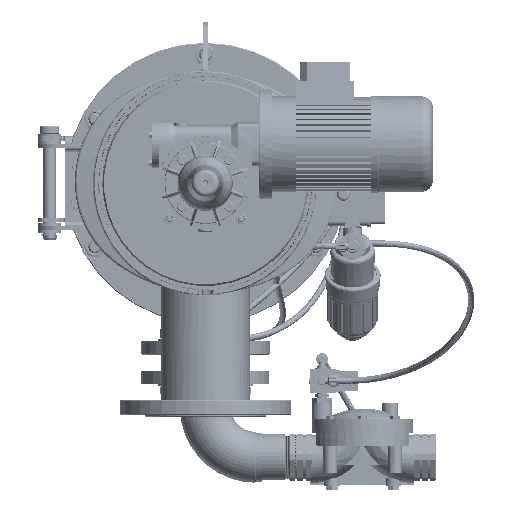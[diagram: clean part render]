
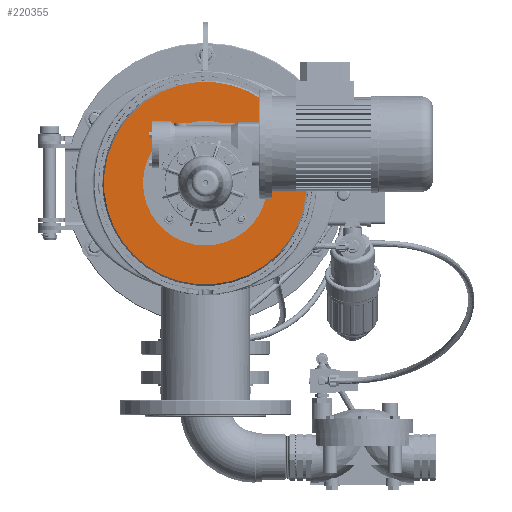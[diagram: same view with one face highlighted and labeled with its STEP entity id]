
A CAD part, left-side view. The second image highlights one B-rep face of the part: STEP entity #220355.
In plain terms, the highlighted planar face has unit normal (-1, 0, 0).
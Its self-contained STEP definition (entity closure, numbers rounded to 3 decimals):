
#12714 = AXIS2_PLACEMENT_3D ( 'NONE', #828636, #163507, #85717 ) ;
#14772 = ORIENTED_EDGE ( 'NONE', *, *, #854818, .T. ) ;
#30486 = CARTESIAN_POINT ( 'NONE',  ( 495.198, 45.962, 45.962 ) ) ;
#33025 = AXIS2_PLACEMENT_3D ( 'NONE', #560034, #273378, #792767 ) ;
#46619 = VERTEX_POINT ( 'NONE', #488738 ) ;
#60354 = FACE_BOUND ( 'NONE', #413342, .T. ) ;
#83939 = AXIS2_PLACEMENT_3D ( 'NONE', #248851, #841304, #700142 ) ;
#85717 = DIRECTION ( 'NONE',  ( 0., 0.707, -0.707 ) ) ;
#88840 = CIRCLE ( 'NONE', #585296, 4.75 ) ;
#94607 = CIRCLE ( 'NONE', #559881, 4.75 ) ;
#97579 = EDGE_CURVE ( 'NONE', #626659, #626659, #939202, .T. ) ;
#103828 = CARTESIAN_POINT ( 'NONE',  ( 495.198, -45.962, 45.962 ) ) ;
#106593 = VERTEX_POINT ( 'NONE', #402811 ) ;
#111396 = AXIS2_PLACEMENT_3D ( 'NONE', #345191, #422924, #291547 ) ;
#123758 = DIRECTION ( 'NONE',  ( 0., -0.707, 0.707 ) ) ;
#129712 = DIRECTION ( 'NONE',  ( 1., 0., 0. ) ) ;
#133422 = FACE_BOUND ( 'NONE', #368033, .T. ) ;
#140202 = EDGE_LOOP ( 'NONE', ( #14772 ) ) ;
#158968 = CIRCLE ( 'NONE', #779232, 3.75 ) ;
#163507 = DIRECTION ( 'NONE',  ( -1., 0., 0. ) ) ;
#171759 = CIRCLE ( 'NONE', #111396, 3.75 ) ;
#182796 = ORIENTED_EDGE ( 'NONE', *, *, #203639, .T. ) ;
#192026 = DIRECTION ( 'NONE',  ( 0., -0.707, 0.707 ) ) ;
#203639 = EDGE_CURVE ( 'NONE', #46619, #46619, #617412, .T. ) ;
#210942 = FACE_BOUND ( 'NONE', #140202, .T. ) ;
#219985 = VERTEX_POINT ( 'NONE', #380014 ) ;
#220355 = ADVANCED_FACE ( 'NONE', ( #662264, #210942, #133422, #288621, #735076, #725609, #817670, #60354, #812826 ), #220518, .F. ) ;
#220518 = PLANE ( 'NONE',  #823434 ) ;
#230788 = CIRCLE ( 'NONE', #913613, 4.75 ) ;
#248851 = CARTESIAN_POINT ( 'NONE',  ( 495.198, 0., 0. ) ) ;
#259660 = EDGE_CURVE ( 'NONE', #742995, #742995, #158968, .T. ) ;
#261194 = ORIENTED_EDGE ( 'NONE', *, *, #609213, .T. ) ;
#273378 = DIRECTION ( 'NONE',  ( 1., 0., 0. ) ) ;
#277589 = VERTEX_POINT ( 'NONE', #719299 ) ;
#283252 = EDGE_CURVE ( 'NONE', #106593, #106593, #607242, .T. ) ;
#288621 = FACE_BOUND ( 'NONE', #717430, .T. ) ;
#291547 = DIRECTION ( 'NONE',  ( 0., -0.707, 0.707 ) ) ;
#293452 = DIRECTION ( 'NONE',  ( 0., -0.707, 0.707 ) ) ;
#310896 = CARTESIAN_POINT ( 'NONE',  ( 495.198, -11.063, 34.044 ) ) ;
#345191 = CARTESIAN_POINT ( 'NONE',  ( 495.198, -22.981, -22.981 ) ) ;
#368033 = EDGE_LOOP ( 'NONE', ( #452987 ) ) ;
#380014 = CARTESIAN_POINT ( 'NONE',  ( 495.198, 18.385, -18.385 ) ) ;
#402811 = CARTESIAN_POINT ( 'NONE',  ( 495.198, 28.741, -5.76 ) ) ;
#405839 = CARTESIAN_POINT ( 'NONE',  ( 495.198, 45.962, -45.962 ) ) ;
#410667 = DIRECTION ( 'NONE',  ( 1., 0., 0. ) ) ;
#413342 = EDGE_LOOP ( 'NONE', ( #838333 ) ) ;
#422924 = DIRECTION ( 'NONE',  ( 1., 0., 0. ) ) ;
#443436 = EDGE_LOOP ( 'NONE', ( #261194 ) ) ;
#452987 = ORIENTED_EDGE ( 'NONE', *, *, #259660, .T. ) ;
#463412 = DIRECTION ( 'NONE',  ( 1., 0., 0. ) ) ;
#472649 = DIRECTION ( 'NONE',  ( 0., -0.707, 0.707 ) ) ;
#488738 = CARTESIAN_POINT ( 'NONE',  ( 495.198, 91.924, -91.924 ) ) ;
#492816 = CARTESIAN_POINT ( 'NONE',  ( 495.198, -8.412, 31.393 ) ) ;
#517471 = ORIENTED_EDGE ( 'NONE', *, *, #598085, .T. ) ;
#520491 = AXIS2_PLACEMENT_3D ( 'NONE', #405839, #410667, #192026 ) ;
#530361 = VERTEX_POINT ( 'NONE', #816976 ) ;
#559881 = AXIS2_PLACEMENT_3D ( 'NONE', #30486, #909798, #472649 ) ;
#560034 = CARTESIAN_POINT ( 'NONE',  ( 495.198, 31.393, -8.412 ) ) ;
#584835 = DIRECTION ( 'NONE',  ( 1., 0., 0. ) ) ;
#585296 = AXIS2_PLACEMENT_3D ( 'NONE', #658561, #129712, #954875 ) ;
#598085 = EDGE_CURVE ( 'NONE', #530361, #530361, #171759, .T. ) ;
#607242 = CIRCLE ( 'NONE', #33025, 3.75 ) ;
#607482 = ORIENTED_EDGE ( 'NONE', *, *, #283252, .T. ) ;
#609213 = EDGE_CURVE ( 'NONE', #695073, #695073, #88840, .T. ) ;
#616517 = ORIENTED_EDGE ( 'NONE', *, *, #97579, .T. ) ;
#617412 = CIRCLE ( 'NONE', #12714, 130. ) ;
#625227 = EDGE_LOOP ( 'NONE', ( #616517 ) ) ;
#626659 = VERTEX_POINT ( 'NONE', #854866 ) ;
#642336 = EDGE_LOOP ( 'NONE', ( #182796 ) ) ;
#658561 = CARTESIAN_POINT ( 'NONE',  ( 495.198, -45.962, -45.962 ) ) ;
#662264 = FACE_BOUND ( 'NONE', #705425, .T. ) ;
#695073 = VERTEX_POINT ( 'NONE', #772738 ) ;
#700142 = DIRECTION ( 'NONE',  ( 0., 0.707, -0.707 ) ) ;
#705425 = EDGE_LOOP ( 'NONE', ( #761371 ) ) ;
#717430 = EDGE_LOOP ( 'NONE', ( #607482 ) ) ;
#719299 = CARTESIAN_POINT ( 'NONE',  ( 495.198, 42.603, 49.321 ) ) ;
#722016 = EDGE_CURVE ( 'NONE', #219985, #219985, #890232, .T. ) ;
#725609 = FACE_BOUND ( 'NONE', #443436, .T. ) ;
#735076 = FACE_BOUND ( 'NONE', #625227, .T. ) ;
#742995 = VERTEX_POINT ( 'NONE', #310896 ) ;
#754566 = DIRECTION ( 'NONE',  ( 0., -0.707, 0.707 ) ) ;
#761371 = ORIENTED_EDGE ( 'NONE', *, *, #948631, .T. ) ;
#769409 = CARTESIAN_POINT ( 'NONE',  ( 495.198, -49.321, 49.321 ) ) ;
#772738 = CARTESIAN_POINT ( 'NONE',  ( 495.198, -49.321, -42.603 ) ) ;
#779232 = AXIS2_PLACEMENT_3D ( 'NONE', #492816, #788915, #123758 ) ;
#788915 = DIRECTION ( 'NONE',  ( 1., 0., 0. ) ) ;
#792767 = DIRECTION ( 'NONE',  ( 0., -0.707, 0.707 ) ) ;
#812826 = FACE_OUTER_BOUND ( 'NONE', #642336, .T. ) ;
#816976 = CARTESIAN_POINT ( 'NONE',  ( 495.198, -25.633, -20.329 ) ) ;
#817670 = FACE_BOUND ( 'NONE', #908391, .T. ) ;
#823434 = AXIS2_PLACEMENT_3D ( 'NONE', #876265, #584835, #293452 ) ;
#828636 = CARTESIAN_POINT ( 'NONE',  ( 495.198, 0., 0. ) ) ;
#838333 = ORIENTED_EDGE ( 'NONE', *, *, #722016, .F. ) ;
#841304 = DIRECTION ( 'NONE',  ( -1., 0., 0. ) ) ;
#854818 = EDGE_CURVE ( 'NONE', #920168, #920168, #230788, .T. ) ;
#854866 = CARTESIAN_POINT ( 'NONE',  ( 495.198, 42.603, -42.603 ) ) ;
#876265 = CARTESIAN_POINT ( 'NONE',  ( 495.198, -91.924, -91.924 ) ) ;
#890232 = CIRCLE ( 'NONE', #83939, 26. ) ;
#908391 = EDGE_LOOP ( 'NONE', ( #517471 ) ) ;
#909798 = DIRECTION ( 'NONE',  ( 1., 0., 0. ) ) ;
#913613 = AXIS2_PLACEMENT_3D ( 'NONE', #103828, #463412, #754566 ) ;
#920168 = VERTEX_POINT ( 'NONE', #769409 ) ;
#939202 = CIRCLE ( 'NONE', #520491, 4.75 ) ;
#948631 = EDGE_CURVE ( 'NONE', #277589, #277589, #94607, .T. ) ;
#954875 = DIRECTION ( 'NONE',  ( 0., -0.707, 0.707 ) ) ;
